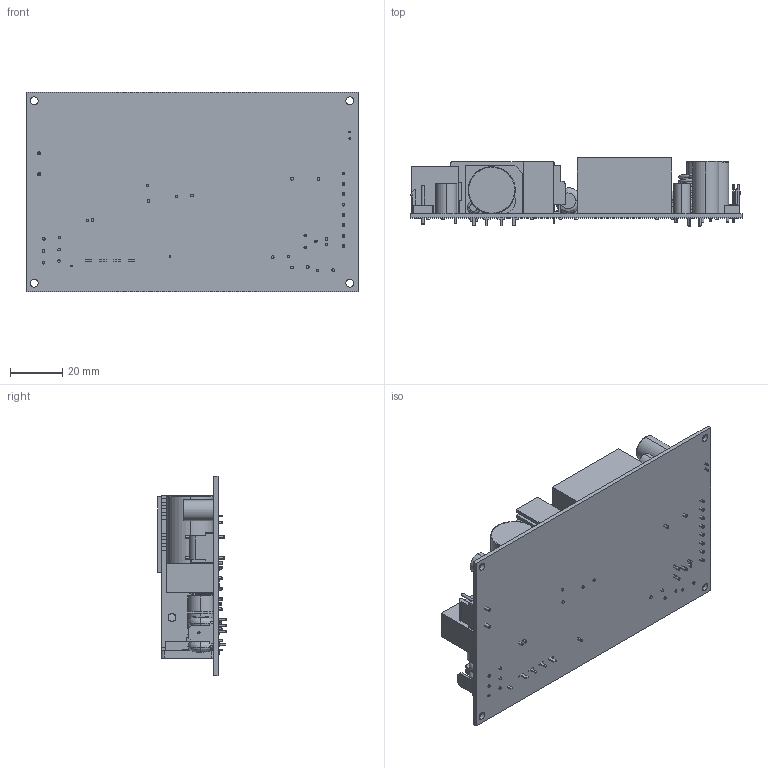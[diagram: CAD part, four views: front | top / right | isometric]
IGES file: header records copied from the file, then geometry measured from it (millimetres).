
Start section: SolidWorks IGES file using analytic representation for surfaces
Global section: file name: C:\Users\davidcook\Desktop\KENT\ECP225PS 3X5 CLEAN.IGS; native system: SolidWorks 2013; preprocessor: SolidWorks 2013; author: davidcook; date: 130510.120128; units: inch
Bounding box: 127 x 26.1 x 76.2 mm (x, y, z)
Volume: 83752.7 mm3; surface area: 53390.7 mm2
Topology: 38 solids, 38 shells, 874 faces, 2123 edges, 1350 vertices
Faces by surface type: plane 505, revolution 240, bspline 129
